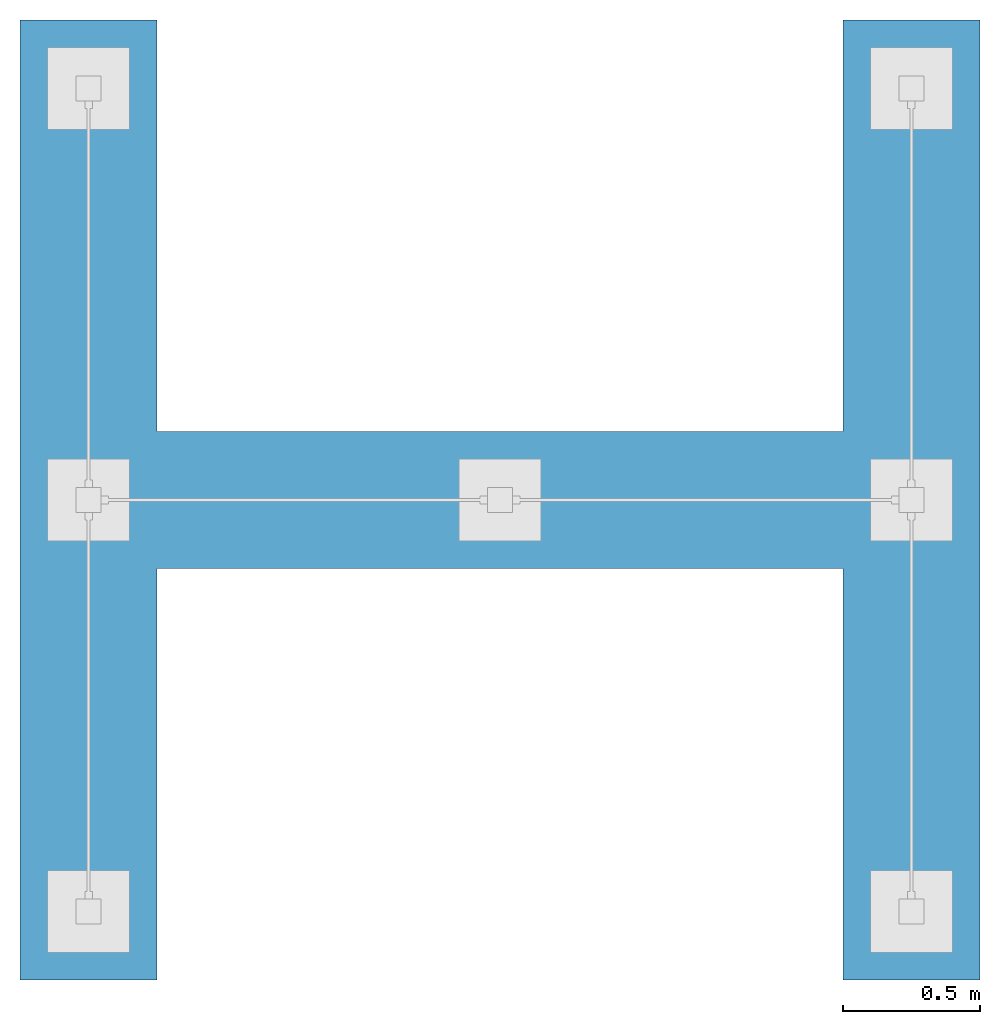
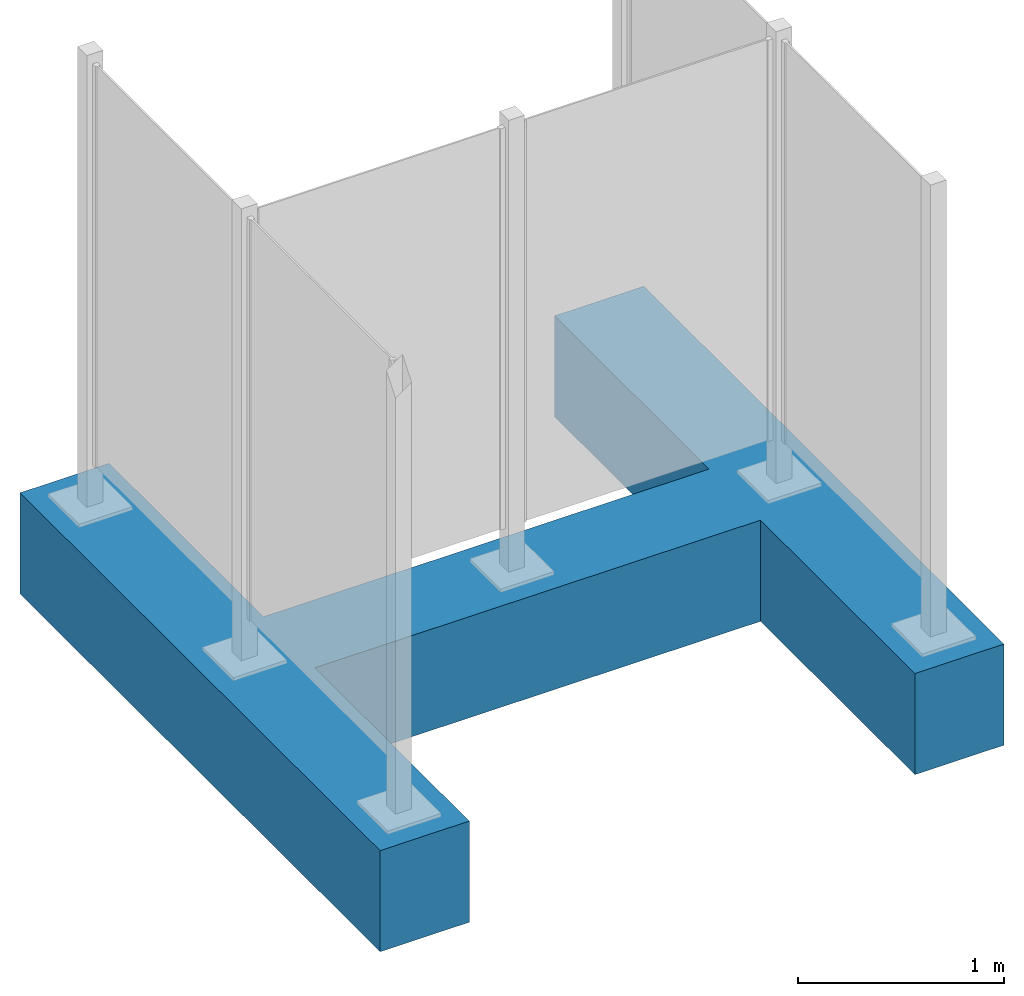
# One storey, part 1 of 2: 1 slab.
"""IFC4 building model written with IfcOpenShell, lengths in metres."""

from ifc_helpers import new_model, entity, si_unit, converted_unit, direction, frame, frame_2d, origin, place, context, subcontext, project, spatial, i_section, extrude, material, type_object, element, save


model = new_model("IFC4")

# Units and contexts
model_context = context("Model", 3, precision=1e-05, world=origin(), true_north=direction((6.123031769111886e-17, 1.0)))
body_context = subcontext(model_context, "Body", "Model", "MODEL_VIEW")
ifc_project = project(units=[si_unit("LENGTHUNIT", "METRE"), converted_unit("PLANEANGLEUNIT", "DEGREE", entity("IfcPlaneAngleMeasure", 0.017453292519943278), si_unit("PLANEANGLEUNIT", "RADIAN"), dimensions=[0, 0, 0, 0, 0, 0, 0]), si_unit("AREAUNIT", "SQUARE_METRE")], contexts=[model_context])

# Site, building, storey
site_placement = place(None, origin())
site = spatial("IfcSite", under=ifc_project, at=site_placement, Name="Default", CompositionType="ELEMENT")
building_placement = place(site_placement, origin())
building = spatial("IfcBuilding", under=site, at=building_placement, CompositionType="ELEMENT")
storey_placement = place(building_placement, origin())
storey = spatial("IfcBuildingStorey", under=building, at=storey_placement, Name="Ebene 0", CompositionType="ELEMENT", Elevation=0.0)

# Slab
ifc_material = material(Name="DB_Ortbeton", Category="DB_Beton")
slab_type = type_object("IfcSlabType", Name="DB_Windschutz_2-feldrig_H_Fundament:DB_Windschutz_2-feldrig_H_Fundament", PredefinedType="BASESLAB", material=ifc_material)
slab_placement = place(storey_placement, origin())
element("IfcSlab", 1, at=slab_placement, inside=storey, type_object=slab_type, Name="DB_Windschutz_2-feldrig_H_Fundament:DB_Windschutz_2-feldrig_H_Fundament", ObjectType="DB_Windschutz_2-feldrig_H_Fundament:DB_Windschutz_2-feldrig_H_Fundament", PredefinedType="BASESLAB", context=body_context, shape_type="SweptSolid", body=[
    extrude(i_section(OverallWidth=3.4999999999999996, OverallDepth=3.4999999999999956, WebThickness=0.5000000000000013, FlangeThickness=0.4999999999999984, at=frame_2d((0.0, -8.049116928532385e-16), x_axis=(0.0, 1.0))), frame((1.5000000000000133, 1.4999999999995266, 0.0), z_axis=(0.0, 0.0, -1.0), x_axis=(-1.0, 0.0, 0.0)), (0.0, 0.0, -1.0), 0.5999999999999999),
])

save(model, "model.ifc")
